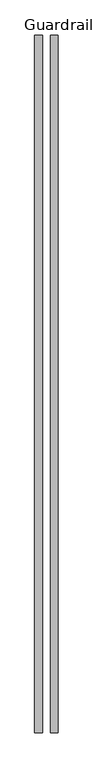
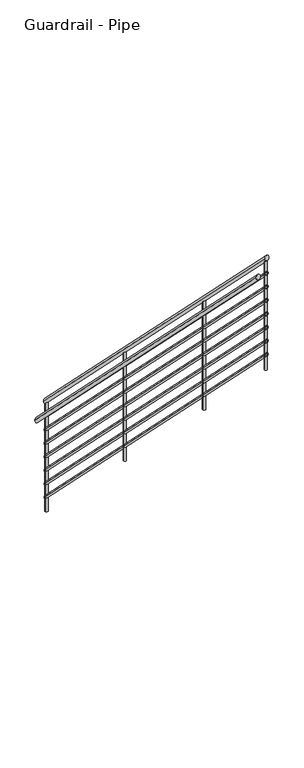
"""IFC4 building model written with IfcOpenShell, lengths in millimetres: railing geometry, Guardrail - Pipe."""

from ifc_helpers import new_model, si_unit, frame, origin, place, context, project, spatial, circle_curve, ellipse_curve, source, transform, mapped, element, save
from ifc_brep_helpers import plane_surface, cylinder_surface, advanced_brep


def guardrail_pipe_ffde7d2e(model_context):
    return source(origin(), model_context, "Body", "AdvancedBrep", [
        advanced_brep(
        [(-590.6362718, 32344.1921646, 1268.4592316), (-552.5362718, 32344.1921646, 1268.4592316), (-590.6362718, 28942.3977925, 4670.2536037), (-552.5362718, 28942.3977925, 4670.2536037)],
        [
            (0, 1, ellipse_curve(frame((-571.5862718, 32344.1921646, 1268.4592316), z_axis=(0.0, 1.0, 0.0), x_axis=(0.0, 0.0, -1.0)), 26.9407684, 19.05)),
            (1, 0, ellipse_curve(frame((-571.5862718, 32344.1921646, 1268.4592316), z_axis=(0.0, 1.0, 0.0), x_axis=(0.0, 0.0, -1.0)), 26.9407684, 19.05)),
            (2, 3, ellipse_curve(frame((-571.5862718, 28942.3977925, 4670.2536037), z_axis=(0.0, -1.0, 0.0), x_axis=(0.0, 0.0, -1.0)), 26.9407684, 19.05)),
            (3, 2, ellipse_curve(frame((-571.5862718, 28942.3977925, 4670.2536037), z_axis=(0.0, -1.0, 0.0), x_axis=(0.0, 0.0, -1.0)), 26.9407684, 19.05)),
            (0, 2),
            (3, 1),
        ],
        [
            plane_surface(frame((-571.5862718, 32344.1921646, 1295.4), z_axis=(0.0, 1.0, 0.0), x_axis=(0.0, 0.0, -1.0))),
            plane_surface(frame((-571.5862718, 28942.3977925, 4697.194372), z_axis=(0.0, -1.0, 0.0), x_axis=(0.0, 0.0, -1.0))),
            cylinder_surface(frame((-571.5862718, 32330.7217804, 1281.9296158), z_axis=(0.0, 0.7071067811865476, -0.7071067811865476), x_axis=(1.0, 0.0, 0.0)), 19.05),
        ],
        [
            (0, [[1, 2]]),
            (1, [[3, 4]]),
            (2, [[-1, 5, -4, 6]]),
            (2, [[-2, -6, -3, -5]]),
        ],
    ),
        advanced_brep(
        [(-584.2862718, 32344.1921646, 1125.0394878), (-558.8862718, 32344.1921646, 1125.0394878), (-584.2862718, 28942.3977925, 4526.8338598), (-558.8862718, 28942.3977925, 4526.8338598)],
        [
            (0, 1, ellipse_curve(frame((-571.5862718, 32344.1921646, 1125.0394878), z_axis=(0.0, 1.0, 0.0), x_axis=(0.0, 0.0, -1.0)), 17.9605122, 12.7)),
            (1, 0, ellipse_curve(frame((-571.5862718, 32344.1921646, 1125.0394878), z_axis=(0.0, 1.0, 0.0), x_axis=(0.0, 0.0, -1.0)), 17.9605122, 12.7)),
            (2, 3, ellipse_curve(frame((-571.5862718, 28942.3977925, 4526.8338598), z_axis=(0.0, -1.0, 0.0), x_axis=(0.0, 0.0, -1.0)), 17.9605122, 12.7)),
            (3, 2, ellipse_curve(frame((-571.5862718, 28942.3977925, 4526.8338598), z_axis=(0.0, -1.0, 0.0), x_axis=(0.0, 0.0, -1.0)), 17.9605122, 12.7)),
            (0, 2),
            (3, 1),
        ],
        [
            plane_surface(frame((-571.5862718, 32344.1921646, 1143.0), z_axis=(0.0, 1.0, 0.0), x_axis=(0.0, 0.0, -1.0))),
            plane_surface(frame((-571.5862718, 28942.3977925, 4544.794372), z_axis=(0.0, -1.0, 0.0), x_axis=(0.0, 0.0, -1.0))),
            cylinder_surface(frame((-571.5862718, 32335.2119084, 1134.0197439), z_axis=(0.0, 0.7071067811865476, -0.7071067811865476), x_axis=(1.0, 0.0, 0.0)), 12.7),
        ],
        [
            (0, [[1, 2]]),
            (1, [[3, 4]]),
            (2, [[-1, 5, -4, 6]]),
            (2, [[-2, -6, -3, -5]]),
        ],
    ),
        advanced_brep(
        [(-666.8362718, 32344.1921646, 1116.0592316), (-628.7362718, 32344.1921646, 1116.0592316), (-666.8362718, 28942.3977925, 4517.8536037), (-628.7362718, 28942.3977925, 4517.8536037)],
        [
            (0, 1, ellipse_curve(frame((-647.7862718, 32344.1921646, 1116.0592316), z_axis=(0.0, 1.0, 0.0), x_axis=(0.0, 0.0, -1.0)), 26.9407684, 19.05)),
            (1, 0, ellipse_curve(frame((-647.7862718, 32344.1921646, 1116.0592316), z_axis=(0.0, 1.0, 0.0), x_axis=(0.0, 0.0, -1.0)), 26.9407684, 19.05)),
            (2, 3, ellipse_curve(frame((-647.7862718, 28942.3977925, 4517.8536037), z_axis=(0.0, -1.0, 0.0), x_axis=(0.0, 0.0, -1.0)), 26.9407684, 19.05)),
            (3, 2, ellipse_curve(frame((-647.7862718, 28942.3977925, 4517.8536037), z_axis=(0.0, -1.0, 0.0), x_axis=(0.0, 0.0, -1.0)), 26.9407684, 19.05)),
            (0, 2),
            (3, 1),
        ],
        [
            plane_surface(frame((-647.7862718, 32344.1921646, 1143.0), z_axis=(0.0, 1.0, 0.0), x_axis=(0.0, 0.0, -1.0))),
            plane_surface(frame((-647.7862718, 28942.3977925, 4544.794372), z_axis=(0.0, -1.0, 0.0), x_axis=(0.0, 0.0, -1.0))),
            cylinder_surface(frame((-647.7862718, 32330.7217804, 1129.5296158), z_axis=(0.0, 0.7071067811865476, -0.7071067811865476), x_axis=(1.0, 0.0, 0.0)), 19.05),
        ],
        [
            (0, [[1, 2]]),
            (1, [[3, 4]]),
            (2, [[-1, 5, -4, 6]]),
            (2, [[-2, -6, -3, -5]]),
        ],
    ),
        advanced_brep(
        [(-584.2862718, 32344.1921646, 998.0394878), (-558.8862718, 32344.1921646, 998.0394878), (-584.2862718, 28942.3977925, 4399.8338598), (-558.8862718, 28942.3977925, 4399.8338598)],
        [
            (0, 1, ellipse_curve(frame((-571.5862718, 32344.1921646, 998.0394878), z_axis=(0.0, 1.0, 0.0), x_axis=(0.0, 0.0, -1.0)), 17.9605122, 12.7)),
            (1, 0, ellipse_curve(frame((-571.5862718, 32344.1921646, 998.0394878), z_axis=(0.0, 1.0, 0.0), x_axis=(0.0, 0.0, -1.0)), 17.9605122, 12.7)),
            (2, 3, ellipse_curve(frame((-571.5862718, 28942.3977925, 4399.8338598), z_axis=(0.0, -1.0, 0.0), x_axis=(0.0, 0.0, -1.0)), 17.9605122, 12.7)),
            (3, 2, ellipse_curve(frame((-571.5862718, 28942.3977925, 4399.8338598), z_axis=(0.0, -1.0, 0.0), x_axis=(0.0, 0.0, -1.0)), 17.9605122, 12.7)),
            (0, 2),
            (3, 1),
        ],
        [
            plane_surface(frame((-571.5862718, 32344.1921646, 1016.0), z_axis=(0.0, 1.0, 0.0), x_axis=(0.0, 0.0, -1.0))),
            plane_surface(frame((-571.5862718, 28942.3977925, 4417.794372), z_axis=(0.0, -1.0, 0.0), x_axis=(0.0, 0.0, -1.0))),
            cylinder_surface(frame((-571.5862718, 32335.2119084, 1007.0197439), z_axis=(0.0, 0.7071067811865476, -0.7071067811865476), x_axis=(1.0, 0.0, 0.0)), 12.7),
        ],
        [
            (0, [[1, 2]]),
            (1, [[3, 4]]),
            (2, [[-1, 5, -4, 6]]),
            (2, [[-2, -6, -3, -5]]),
        ],
    ),
        advanced_brep(
        [(-584.2862718, 32344.1921646, 871.0394878), (-558.8862718, 32344.1921646, 871.0394878), (-584.2862718, 28942.3977925, 4272.8338598), (-558.8862718, 28942.3977925, 4272.8338598)],
        [
            (0, 1, ellipse_curve(frame((-571.5862718, 32344.1921646, 871.0394878), z_axis=(0.0, 1.0, 0.0), x_axis=(0.0, 0.0, -1.0)), 17.9605122, 12.7)),
            (1, 0, ellipse_curve(frame((-571.5862718, 32344.1921646, 871.0394878), z_axis=(0.0, 1.0, 0.0), x_axis=(0.0, 0.0, -1.0)), 17.9605122, 12.7)),
            (2, 3, ellipse_curve(frame((-571.5862718, 28942.3977925, 4272.8338598), z_axis=(0.0, -1.0, 0.0), x_axis=(0.0, 0.0, -1.0)), 17.9605122, 12.7)),
            (3, 2, ellipse_curve(frame((-571.5862718, 28942.3977925, 4272.8338598), z_axis=(0.0, -1.0, 0.0), x_axis=(0.0, 0.0, -1.0)), 17.9605122, 12.7)),
            (0, 2),
            (3, 1),
        ],
        [
            plane_surface(frame((-571.5862718, 32344.1921646, 889.0), z_axis=(0.0, 1.0, 0.0), x_axis=(0.0, 0.0, -1.0))),
            plane_surface(frame((-571.5862718, 28942.3977925, 4290.794372), z_axis=(0.0, -1.0, 0.0), x_axis=(0.0, 0.0, -1.0))),
            cylinder_surface(frame((-571.5862718, 32335.2119084, 880.0197439), z_axis=(0.0, 0.7071067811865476, -0.7071067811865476), x_axis=(1.0, 0.0, 0.0)), 12.7),
        ],
        [
            (0, [[1, 2]]),
            (1, [[3, 4]]),
            (2, [[-1, 5, -4, 6]]),
            (2, [[-2, -6, -3, -5]]),
        ],
    ),
        advanced_brep(
        [(-584.2862718, 32344.1921646, 744.0394878), (-558.8862718, 32344.1921646, 744.0394878), (-584.2862718, 28942.3977925, 4145.8338598), (-558.8862718, 28942.3977925, 4145.8338598)],
        [
            (0, 1, ellipse_curve(frame((-571.5862718, 32344.1921646, 744.0394878), z_axis=(0.0, 1.0, 0.0), x_axis=(0.0, 0.0, -1.0)), 17.9605122, 12.7)),
            (1, 0, ellipse_curve(frame((-571.5862718, 32344.1921646, 744.0394878), z_axis=(0.0, 1.0, 0.0), x_axis=(0.0, 0.0, -1.0)), 17.9605122, 12.7)),
            (2, 3, ellipse_curve(frame((-571.5862718, 28942.3977925, 4145.8338598), z_axis=(0.0, -1.0, 0.0), x_axis=(0.0, 0.0, -1.0)), 17.9605122, 12.7)),
            (3, 2, ellipse_curve(frame((-571.5862718, 28942.3977925, 4145.8338598), z_axis=(0.0, -1.0, 0.0), x_axis=(0.0, 0.0, -1.0)), 17.9605122, 12.7)),
            (0, 2),
            (3, 1),
        ],
        [
            plane_surface(frame((-571.5862718, 32344.1921646, 762.0), z_axis=(0.0, 1.0, 0.0), x_axis=(0.0, 0.0, -1.0))),
            plane_surface(frame((-571.5862718, 28942.3977925, 4163.794372), z_axis=(0.0, -1.0, 0.0), x_axis=(0.0, 0.0, -1.0))),
            cylinder_surface(frame((-571.5862718, 32335.2119084, 753.0197439), z_axis=(0.0, 0.7071067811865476, -0.7071067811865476), x_axis=(1.0, 0.0, 0.0)), 12.7),
        ],
        [
            (0, [[1, 2]]),
            (1, [[3, 4]]),
            (2, [[-1, 5, -4, 6]]),
            (2, [[-2, -6, -3, -5]]),
        ],
    ),
        advanced_brep(
        [(-584.2862718, 32344.1921646, 617.0394878), (-558.8862718, 32344.1921646, 617.0394878), (-584.2862718, 28942.3977925, 4018.8338598), (-558.8862718, 28942.3977925, 4018.8338598)],
        [
            (0, 1, ellipse_curve(frame((-571.5862718, 32344.1921646, 617.0394878), z_axis=(0.0, 1.0, 0.0), x_axis=(0.0, 0.0, -1.0)), 17.9605122, 12.7)),
            (1, 0, ellipse_curve(frame((-571.5862718, 32344.1921646, 617.0394878), z_axis=(0.0, 1.0, 0.0), x_axis=(0.0, 0.0, -1.0)), 17.9605122, 12.7)),
            (2, 3, ellipse_curve(frame((-571.5862718, 28942.3977925, 4018.8338598), z_axis=(0.0, -1.0, 0.0), x_axis=(0.0, 0.0, -1.0)), 17.9605122, 12.7)),
            (3, 2, ellipse_curve(frame((-571.5862718, 28942.3977925, 4018.8338598), z_axis=(0.0, -1.0, 0.0), x_axis=(0.0, 0.0, -1.0)), 17.9605122, 12.7)),
            (0, 2),
            (3, 1),
        ],
        [
            plane_surface(frame((-571.5862718, 32344.1921646, 635.0), z_axis=(0.0, 1.0, 0.0), x_axis=(0.0, 0.0, -1.0))),
            plane_surface(frame((-571.5862718, 28942.3977925, 4036.794372), z_axis=(0.0, -1.0, 0.0), x_axis=(0.0, 0.0, -1.0))),
            cylinder_surface(frame((-571.5862718, 32335.2119084, 626.0197439), z_axis=(0.0, 0.7071067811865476, -0.7071067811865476), x_axis=(1.0, 0.0, 0.0)), 12.7),
        ],
        [
            (0, [[1, 2]]),
            (1, [[3, 4]]),
            (2, [[-1, 5, -4, 6]]),
            (2, [[-2, -6, -3, -5]]),
        ],
    ),
        advanced_brep(
        [(-584.2862718, 32344.1921646, 490.0394878), (-558.8862718, 32344.1921646, 490.0394878), (-584.2862718, 28942.3977925, 3891.8338598), (-558.8862718, 28942.3977925, 3891.8338598)],
        [
            (0, 1, ellipse_curve(frame((-571.5862718, 32344.1921646, 490.0394878), z_axis=(0.0, 1.0, 0.0), x_axis=(0.0, 0.0, -1.0)), 17.9605122, 12.7)),
            (1, 0, ellipse_curve(frame((-571.5862718, 32344.1921646, 490.0394878), z_axis=(0.0, 1.0, 0.0), x_axis=(0.0, 0.0, -1.0)), 17.9605122, 12.7)),
            (2, 3, ellipse_curve(frame((-571.5862718, 28942.3977925, 3891.8338598), z_axis=(0.0, -1.0, 0.0), x_axis=(0.0, 0.0, -1.0)), 17.9605122, 12.7)),
            (3, 2, ellipse_curve(frame((-571.5862718, 28942.3977925, 3891.8338598), z_axis=(0.0, -1.0, 0.0), x_axis=(0.0, 0.0, -1.0)), 17.9605122, 12.7)),
            (0, 2),
            (3, 1),
        ],
        [
            plane_surface(frame((-571.5862718, 32344.1921646, 508.0), z_axis=(0.0, 1.0, 0.0), x_axis=(0.0, 0.0, -1.0))),
            plane_surface(frame((-571.5862718, 28942.3977925, 3909.794372), z_axis=(0.0, -1.0, 0.0), x_axis=(0.0, 0.0, -1.0))),
            cylinder_surface(frame((-571.5862718, 32335.2119084, 499.0197439), z_axis=(0.0, 0.7071067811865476, -0.7071067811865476), x_axis=(1.0, 0.0, 0.0)), 12.7),
        ],
        [
            (0, [[1, 2]]),
            (1, [[3, 4]]),
            (2, [[-1, 5, -4, 6]]),
            (2, [[-2, -6, -3, -5]]),
        ],
    ),
        advanced_brep(
        [(-584.2862718, 32344.1921646, 363.0394878), (-558.8862718, 32344.1921646, 363.0394878), (-584.2862718, 28942.3977925, 3764.8338598), (-558.8862718, 28942.3977925, 3764.8338598)],
        [
            (0, 1, ellipse_curve(frame((-571.5862718, 32344.1921646, 363.0394878), z_axis=(0.0, 1.0, 0.0), x_axis=(0.0, 0.0, -1.0)), 17.9605122, 12.7)),
            (1, 0, ellipse_curve(frame((-571.5862718, 32344.1921646, 363.0394878), z_axis=(0.0, 1.0, 0.0), x_axis=(0.0, 0.0, -1.0)), 17.9605122, 12.7)),
            (2, 3, ellipse_curve(frame((-571.5862718, 28942.3977925, 3764.8338598), z_axis=(0.0, -1.0, 0.0), x_axis=(0.0, 0.0, -1.0)), 17.9605122, 12.7)),
            (3, 2, ellipse_curve(frame((-571.5862718, 28942.3977925, 3764.8338598), z_axis=(0.0, -1.0, 0.0), x_axis=(0.0, 0.0, -1.0)), 17.9605122, 12.7)),
            (0, 2),
            (3, 1),
        ],
        [
            plane_surface(frame((-571.5862718, 32344.1921646, 381.0), z_axis=(0.0, 1.0, 0.0), x_axis=(0.0, 0.0, -1.0))),
            plane_surface(frame((-571.5862718, 28942.3977925, 3782.794372), z_axis=(0.0, -1.0, 0.0), x_axis=(0.0, 0.0, -1.0))),
            cylinder_surface(frame((-571.5862718, 32335.2119084, 372.0197439), z_axis=(0.0, 0.7071067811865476, -0.7071067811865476), x_axis=(1.0, 0.0, 0.0)), 12.7),
        ],
        [
            (0, [[1, 2]]),
            (1, [[3, 4]]),
            (2, [[-1, 5, -4, 6]]),
            (2, [[-2, -6, -3, -5]]),
        ],
    ),
        advanced_brep(
        [(-558.8862718, 29905.7921646, 3679.9184633), (-584.2862718, 29905.7921646, 3679.9184633), (-584.2862718, 29905.7921646, 2667.0), (-558.8862718, 29905.7921646, 2667.0)],
        [
            (0, 1, ellipse_curve(frame((-571.5862718, 29905.7921646, 3679.9184633), z_axis=(0.0, -0.7071067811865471, -0.7071067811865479), x_axis=(0.0, -0.7071067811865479, 0.7071067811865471)), 17.9605122, 12.7)),
            (1, 2),
            (2, 3, circle_curve(frame((-571.5862718, 29905.7921646, 2667.0), z_axis=(0.0, 0.0, 1.0), x_axis=(-1.0, 0.0, 0.0)), 12.7)),
            (3, 0),
            (3, 2, circle_curve(frame((-571.5862718, 29905.7921646, 2667.0), z_axis=(0.0, 0.0, 1.0), x_axis=(-1.0, 0.0, 0.0)), 12.7)),
            (1, 0, ellipse_curve(frame((-571.5862718, 29905.7921646, 3679.9184633), z_axis=(0.0, -0.7071067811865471, -0.7071067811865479), x_axis=(0.0, -0.7071067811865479, 0.7071067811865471)), 17.9605122, 12.7)),
        ],
        [
            cylinder_surface(frame((-571.5862718, 29905.7921646, 2438.4), z_axis=(0.0, 0.0, 1.0), x_axis=(-1.0, 0.0, 0.0)), 12.7),
            plane_surface(frame((-596.9862718, 29880.3921646, 3705.3184633), z_axis=(0.0, 0.7071067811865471, 0.7071067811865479), x_axis=(1.0, 0.0, 0.0))),
            plane_surface(frame((-596.9862718, 29931.1921646, 2667.0), z_axis=(0.0, 0.0, -1.0), x_axis=(1.0, 0.0, 0.0))),
        ],
        [
            (0, [[1, 2, 3, 4]]),
            (0, [[5, -2, 6, -4]]),
            (1, [[-6, -1]]),
            (2, [[-5, -3]]),
        ],
    ),
        advanced_brep(
        [(-558.8862718, 31124.9921646, 2460.7184633), (-584.2862718, 31124.9921646, 2460.7184633), (-584.2862718, 31124.9921646, 1447.8), (-558.8862718, 31124.9921646, 1447.8)],
        [
            (0, 1, ellipse_curve(frame((-571.5862718, 31124.9921646, 2460.7184633), z_axis=(0.0, -0.7071067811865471, -0.7071067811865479), x_axis=(0.0, -0.7071067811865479, 0.7071067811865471)), 17.9605122, 12.7)),
            (1, 2),
            (2, 3, circle_curve(frame((-571.5862718, 31124.9921646, 1447.8), z_axis=(0.0, 0.0, 1.0), x_axis=(-1.0, 0.0, 0.0)), 12.7)),
            (3, 0),
            (3, 2, circle_curve(frame((-571.5862718, 31124.9921646, 1447.8), z_axis=(0.0, 0.0, 1.0), x_axis=(-1.0, 0.0, 0.0)), 12.7)),
            (1, 0, ellipse_curve(frame((-571.5862718, 31124.9921646, 2460.7184633), z_axis=(0.0, -0.7071067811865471, -0.7071067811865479), x_axis=(0.0, -0.7071067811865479, 0.7071067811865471)), 17.9605122, 12.7)),
        ],
        [
            cylinder_surface(frame((-571.5862718, 31124.9921646, 1219.2), z_axis=(0.0, 0.0, 1.0), x_axis=(-1.0, 0.0, 0.0)), 12.7),
            plane_surface(frame((-596.9862718, 31099.5921646, 2486.1184633), z_axis=(0.0, 0.7071067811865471, 0.7071067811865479), x_axis=(1.0, 0.0, 0.0))),
            plane_surface(frame((-596.9862718, 31150.3921646, 1447.8), z_axis=(0.0, 0.0, -1.0), x_axis=(1.0, 0.0, 0.0))),
        ],
        [
            (0, [[1, 2, 3, 4]]),
            (0, [[5, -2, 6, -4]]),
            (1, [[-6, -1]]),
            (2, [[-5, -3]]),
        ],
    ),
        advanced_brep(
        [(-558.8862718, 28955.0977925, 4630.6128353), (-584.2862718, 28955.0977925, 4630.6128353), (-584.2862718, 28955.0977925, 3617.694372), (-558.8862718, 28955.0977925, 3617.694372)],
        [
            (0, 1, ellipse_curve(frame((-571.5862718, 28955.0977925, 4630.6128353), z_axis=(0.0, -0.7071067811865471, -0.7071067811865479), x_axis=(0.0, -0.7071067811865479, 0.7071067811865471)), 17.9605122, 12.7)),
            (1, 2),
            (2, 3, circle_curve(frame((-571.5862718, 28955.0977925, 3617.694372), z_axis=(0.0, 0.0, 1.0), x_axis=(-1.0, 0.0, 0.0)), 12.7)),
            (3, 0),
            (3, 2, circle_curve(frame((-571.5862718, 28955.0977925, 3617.694372), z_axis=(0.0, 0.0, 1.0), x_axis=(-1.0, 0.0, 0.0)), 12.7)),
            (1, 0, ellipse_curve(frame((-571.5862718, 28955.0977925, 4630.6128353), z_axis=(0.0, -0.7071067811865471, -0.7071067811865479), x_axis=(0.0, -0.7071067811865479, 0.7071067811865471)), 17.9605122, 12.7)),
        ],
        [
            cylinder_surface(frame((-571.5862718, 28955.0977925, 3389.094372), z_axis=(0.0, 0.0, 1.0), x_axis=(-1.0, 0.0, 0.0)), 12.7),
            plane_surface(frame((-596.9862718, 28929.6977925, 4656.0128353), z_axis=(0.0, 0.7071067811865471, 0.7071067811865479), x_axis=(1.0, 0.0, 0.0))),
            plane_surface(frame((-596.9862718, 28980.4977925, 3617.694372), z_axis=(0.0, 0.0, -1.0), x_axis=(1.0, 0.0, 0.0))),
        ],
        [
            (0, [[1, 2, 3, 4]]),
            (0, [[5, -2, 6, -4]]),
            (1, [[-6, -1]]),
            (2, [[-5, -3]]),
        ],
    ),
        advanced_brep(
        [(-558.8862718, 32331.4921646, 1254.2184633), (-584.2862718, 32331.4921646, 1254.2184633), (-584.2862718, 32331.4921646, 241.3), (-558.8862718, 32331.4921646, 241.3)],
        [
            (0, 1, ellipse_curve(frame((-571.5862718, 32331.4921646, 1254.2184633), z_axis=(0.0, -0.7071067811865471, -0.7071067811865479), x_axis=(0.0, -0.7071067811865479, 0.7071067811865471)), 17.9605122, 12.7)),
            (1, 2),
            (2, 3, circle_curve(frame((-571.5862718, 32331.4921646, 241.3), z_axis=(0.0, 0.0, 1.0), x_axis=(-1.0, 0.0, 0.0)), 12.7)),
            (3, 0),
            (3, 2, circle_curve(frame((-571.5862718, 32331.4921646, 241.3), z_axis=(0.0, 0.0, 1.0), x_axis=(-1.0, 0.0, 0.0)), 12.7)),
            (1, 0, ellipse_curve(frame((-571.5862718, 32331.4921646, 1254.2184633), z_axis=(0.0, -0.7071067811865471, -0.7071067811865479), x_axis=(0.0, -0.7071067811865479, 0.7071067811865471)), 17.9605122, 12.7)),
        ],
        [
            cylinder_surface(frame((-571.5862718, 32331.4921646, 12.7), z_axis=(0.0, 0.0, 1.0), x_axis=(-1.0, 0.0, 0.0)), 12.7),
            plane_surface(frame((-596.9862718, 32306.0921646, 1279.6184633), z_axis=(0.0, 0.7071067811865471, 0.7071067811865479), x_axis=(1.0, 0.0, 0.0))),
            plane_surface(frame((-596.9862718, 32356.8921646, 241.3), z_axis=(0.0, 0.0, -1.0), x_axis=(1.0, 0.0, 0.0))),
        ],
        [
            (0, [[1, 2, 3, 4]]),
            (0, [[5, -2, 6, -4]]),
            (1, [[-6, -1]]),
            (2, [[-5, -3]]),
        ],
    ),
    ])


if __name__ == "__main__":
    model = new_model("IFC4")
    model_context = context("Model", 3, world=origin())
    ifc_project = project(units=[si_unit("LENGTHUNIT", "METRE", prefix="MILLI")], contexts=[model_context])
    site = spatial("IfcSite", under=ifc_project)
    building = spatial("IfcBuilding", under=site)
    placement = place(None, origin())
    guardrail_pipe_shape = guardrail_pipe_ffde7d2e(model_context)
    element("IfcRailing", 1, ObjectType="Guardrail - Pipe", at=placement, inside=building, context=model_context, shape_type="MappedRepresentation", body=[
        mapped(guardrail_pipe_shape, transform((0.0, 0.0, 0.0), x_axis=(1.0, 0.0, 0.0), y_axis=(0.0, 1.0, 0.0), z_axis=(0.0, 0.0, 1.0))),
    ])
    save(model, "model.ifc")
